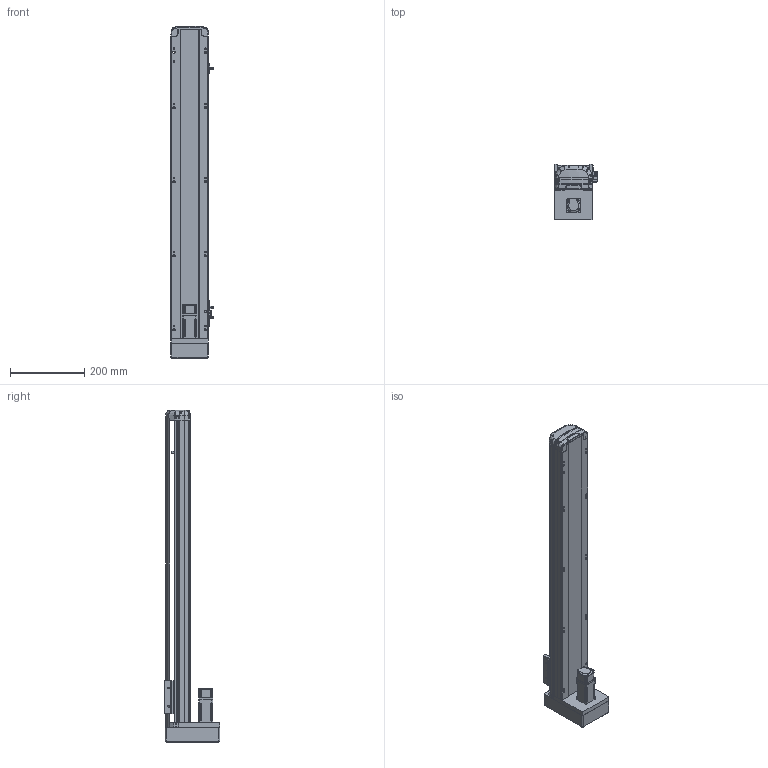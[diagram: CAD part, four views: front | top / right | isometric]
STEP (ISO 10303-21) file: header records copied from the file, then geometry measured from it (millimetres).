
FILE_DESCRIPTION (( 'STEP AP214' ), '1' );
FILE_NAME ('RTH10-XX-650-M-M10-C4.STEP', '2025-10-25T05:46:13', ( 'Microsoft' ), ( 'Microsoft' ), 'SwSTEP 2.0', 'SolidWorks 2018', '' );
FILE_SCHEMA (( 'AUTOMOTIVE_DESIGN' ));
Length unit declared in the file: millimetre
Products named in the file (10): N_RTH12-M-018-裔赽^RTH10-XX-100-M-M10-C4; N_RTH13-L-012覜茼え俋离^RTH10-XX-100-M-M10-C4; RTH10-XX-650-M-M10-C4; N_RTH12-GY-004-賑釱^RTH10-XX-100-M-M10-C4; N_RTH12-M-011P-臏倰第菁釱^RTH10-XX-100-M-M10-C4; N_OMRON EE-SX672 传感器^RTH10-XX-100-M-M10-C4; N_RTH12-GY-001P^RTH10-XX-100-M-M10-C4; N_P10^RTH10-XX-100-M-M10-C4; N_RTH12-M-007P-奻裔^RTH10-XX-100-M-M10-C4; N_RTH12-M-008-萇儂啣^RTH10-XX-100-M-M10-C4
Assembly tree (11 placements, depth 2):
  RTH10-XX-650-M-M10-C4
    N_RTH12-M-011P-臏倰第菁釱^RTH10-XX-100-M-M10-C4
    N_RTH13-L-012覜茼え俋离^RTH10-XX-100-M-M10-C4
    N_OMRON EE-SX672 传感器^RTH10-XX-100-M-M10-C4  x3
    N_P10^RTH10-XX-100-M-M10-C4
    N_RTH12-M-007P-奻裔^RTH10-XX-100-M-M10-C4
    N_RTH12-M-008-萇儂啣^RTH10-XX-100-M-M10-C4
    N_RTH12-M-018-裔赽^RTH10-XX-100-M-M10-C4
    N_RTH12-GY-004-賑釱^RTH10-XX-100-M-M10-C4
    N_RTH12-GY-001P^RTH10-XX-100-M-M10-C4
Bounding box: 116.5 x 149 x 897.14 mm (x, y, z)
Volume: 4126358.7 mm3; surface area: 622026.8 mm2
Topology: 10 solids, 12 shells, 1933 faces, 5395 edges, 3539 vertices
Faces by surface type: plane 955, bspline 472, cylinder 471, cone 29, sphere 4, torus 2
Entity records: 58187 total; most frequent: CARTESIAN_POINT 23167, ORIENTED_EDGE 7862, DIRECTION 6033, EDGE_CURVE 3937, VERTEX_POINT 2583, LINE 2071, VECTOR 2071, AXIS2_PLACEMENT_3D 1981
